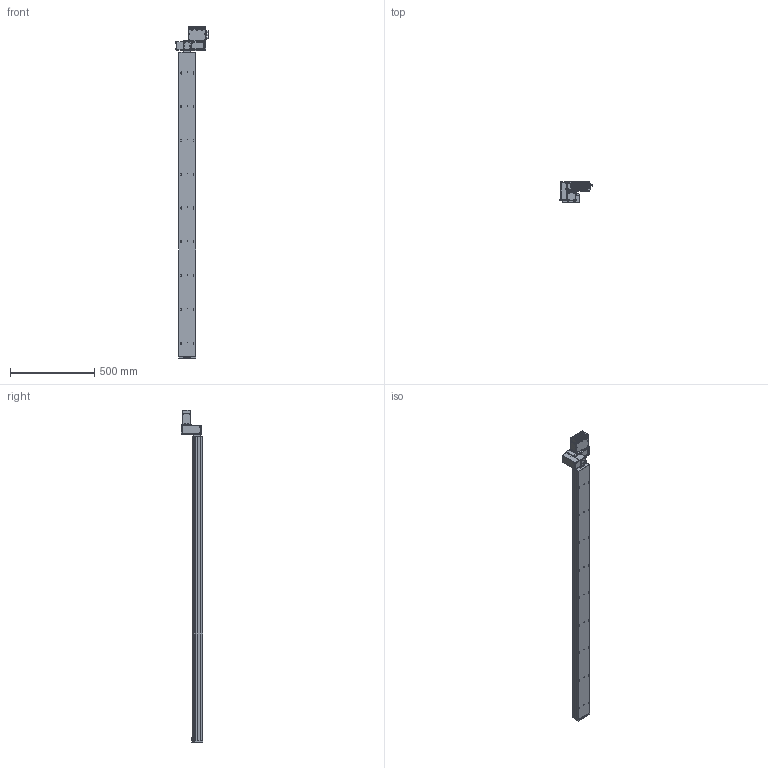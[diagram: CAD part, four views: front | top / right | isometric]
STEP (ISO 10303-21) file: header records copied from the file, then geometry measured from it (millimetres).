
FILE_DESCRIPTION (( 'STEP AP203' ), '1' );
FILE_NAME ('S10 TBN LT S1800.STEP', '2012-06-19T09:52:47', ( 'Conseil Régional Haute-Normandie' ), ( 'Conseil Régional Haute-Normandie' ), 'SwSTEP 2.0', 'SolidWorks 2010', '' );
FILE_SCHEMA (( 'CONFIG_CONTROL_DESIGN' ));
Length unit declared in the file: millimetre
Products named in the file (28): Cvis M5 L30_Default; vis M5 L12_Default; Vis M5 L16-2_Default_1; vis M5 L5_Default; Colonnette_3; BU45 Carte d''axe A11_5; Connecteur rond D12 4cts_5; Sub D 9cts 90_X2_00B_X0__3; Radiateur profil_X2_00E9_X0_ 100x25_3; S10 TBN LT S1800; cache t皻e axe_Default; cache t皻e_Default; embout; plaque de bout s10_Default; Plaque racord_Default; renvoi LH_Default; axe 1800; Assem1_7; T_X2_00F4_X0_le contre le moteur_5; BU41 Carte Alimentation P05_3; Moteur 60BLDC90A_3; Couvercle_3; T_X2_00F4_X0_le fond_3; Connecteur rond D10 3cts_5; Colonnette ronde_3; T_X2_00F4_X0_le Arri_X2_00E8_X0_re_5; T_X2_00F4_X0_le lat_X2_00E9_X0_rale_5; Vis TF 3 torkx_1_1
Assembly tree (61 placements, depth 3):
  S10 TBN LT S1800
    vis M5 L12_Default  x4
    cache t皻e_Default  x2
    Plaque racord_Default
    vis M5 L5_Default  x4
    plaque de bout s10_Default
    Vis M5 L16-2_Default_1  x4
    embout
    axe 1800
    renvoi LH_Default
    cache t皻e axe_Default
    Cvis M5 L30_Default  x2
    Assem1_7
      BU45 Carte d''axe A11_5
      Couvercle_3
      T_X2_00F4_X0_le Arri_X2_00E8_X0_re_5
      T_X2_00F4_X0_le lat_X2_00E9_X0_rale_5  x2
      Vis TF 3 torkx_1_1  x21
      T_X2_00F4_X0_le contre le moteur_5
      Colonnette ronde_3
      Colonnette_3  x2
      T_X2_00F4_X0_le fond_3
      Moteur 60BLDC90A_3
      Connecteur rond D10 3cts_5  x2
      Connecteur rond D12 4cts_5
      BU41 Carte Alimentation P05_3
      Sub D 9cts 90_X2_00B_X0__3
      Radiateur profil_X2_00E9_X0_ 100x25_3
Bounding box: 189.8 x 127 x 1966.5 mm (x, y, z)
Volume: 10048448.8 mm3; surface area: 1129390.7 mm2
Topology: 60 solids, 60 shells, 2250 faces, 5577 edges, 3616 vertices
Faces by surface type: plane 1083, cylinder 974, cone 150, bspline 40, torus 3
Entity records: 46343 total; most frequent: CARTESIAN_POINT 8400, DIRECTION 7468, ORIENTED_EDGE 6790, EDGE_CURVE 3395, AXIS2_PLACEMENT_3D 2783, VERTEX_POINT 2220, LINE 1902, VECTOR 1902
